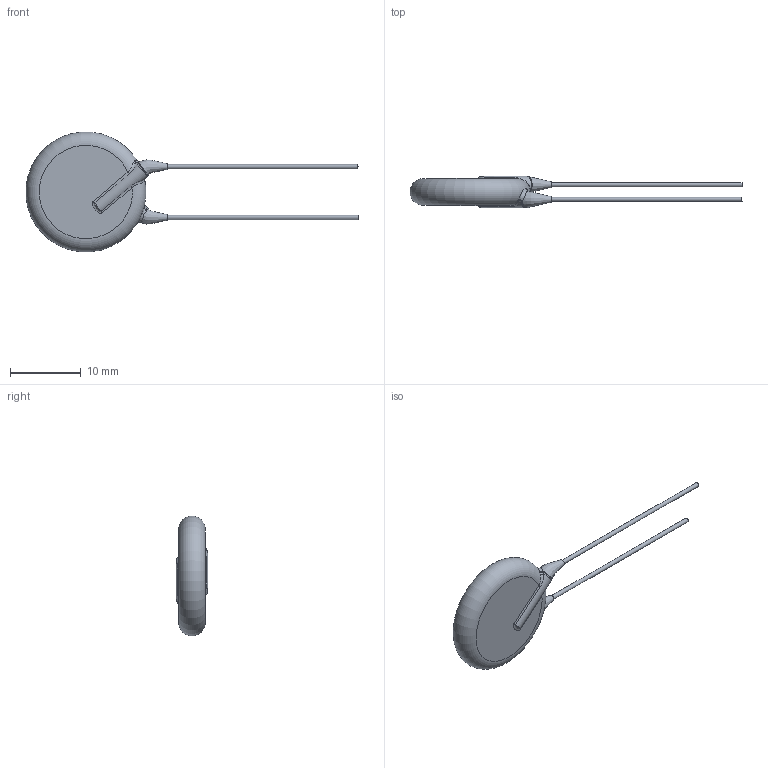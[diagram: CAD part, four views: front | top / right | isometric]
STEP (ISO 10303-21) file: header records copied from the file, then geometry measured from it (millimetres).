
FILE_DESCRIPTION(/* description */ (''),/* implementation_level */ '2;1');
FILE_NAME(/* name */ 'I:\Marketing\M6t1\3D-Models\Zchng-Werk-3\Upload for homepage\Roederstein\WYO\Y5U_250-440\WYO822MCMCF0KR\WYO822MCMCF0KR.stp',/* time_stamp */ '2018-03-20T15:55:46+01:00',/* author */ ('sheinrich'),/* organization */ (''),/* preprocessor_version */ 'ST-DEVELOPER v16.1',/* originating_system */ 'Autodesk Inventor 2016',/* authorisation */ '');
FILE_SCHEMA (('AUTOMOTIVE_DESIGN { 1 0 10303 214 3 1 1 }'));
Length unit declared in the file: centimetre
Products named in the file (1): WYO822MCMCF0KR
Bounding box: 46.97 x 4.5 x 16.94 mm (x, y, z)
Volume: 827.3 mm3; surface area: 708.4 mm2
Topology: 1 solids, 1 shells, 43 faces, 96 edges, 57 vertices
Faces by surface type: bspline 22, cylinder 8, torus 7, plane 6
Full cylindrical faces by diameter (mm): 0.6 x2
Entity records: 2154 total; most frequent: CARTESIAN_POINT 1273, ORIENTED_EDGE 184, DIRECTION 124, EDGE_CURVE 92, AXIS2_PLACEMENT_3D 58, VERTEX_POINT 56, B_SPLINE_CURVE_WITH_KNOTS 48, EDGE_LOOP 48
